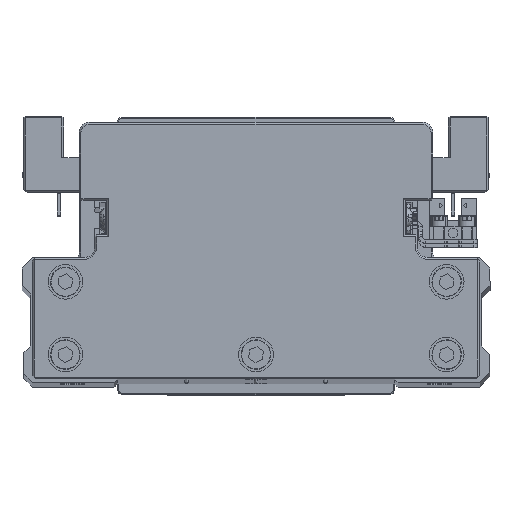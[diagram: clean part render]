
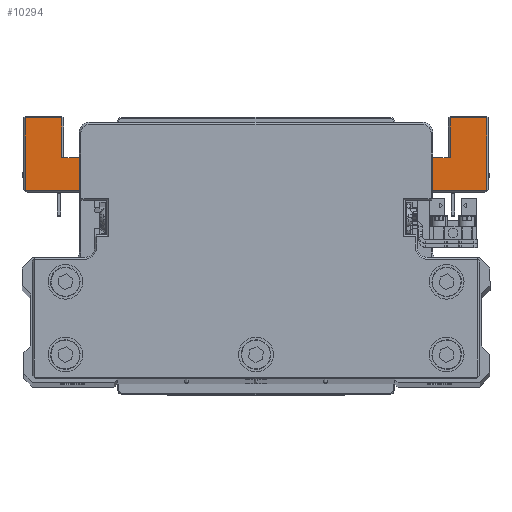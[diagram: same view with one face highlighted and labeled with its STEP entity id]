
A CAD part, top view. The second image highlights one B-rep face of the part: STEP entity #10294.
In plain terms, the highlighted planar face has unit normal (0, 0, 1) as drawn and (0, -1, 0) by its records, which use the part's own axes.
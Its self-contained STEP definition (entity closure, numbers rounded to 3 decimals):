
#60 = CARTESIAN_POINT ( 'NONE',  ( -56., -45., -64. ) ) ;
#133 = LINE ( 'NONE', #12550, #152 ) ;
#152 = VECTOR ( 'NONE', #24964, 1000. ) ;
#181 = EDGE_CURVE ( 'NONE', #21345, #37953, #11212, .T. ) ;
#535 = LINE ( 'NONE', #12955, #39543 ) ;
#1201 = CARTESIAN_POINT ( 'NONE',  ( 46., -45., -54. ) ) ;
#1546 = CARTESIAN_POINT ( 'NONE',  ( -55.5, -45., -52.5 ) ) ;
#1663 = CARTESIAN_POINT ( 'NONE',  ( -46., -45., -54. ) ) ;
#2232 = EDGE_CURVE ( 'NONE', #38686, #11664, #20636, .T. ) ;
#2414 = VECTOR ( 'NONE', #36011, 1000. ) ;
#2576 = LINE ( 'NONE', #15019, #5774 ) ;
#3680 = DIRECTION ( 'NONE',  ( 0., 0., -1. ) ) ;
#3846 = EDGE_CURVE ( 'NONE', #17227, #33360, #31991, .T. ) ;
#3894 = VERTEX_POINT ( 'NONE', #29159 ) ;
#3926 = VERTEX_POINT ( 'NONE', #1663 ) ;
#4112 = CARTESIAN_POINT ( 'NONE',  ( 25.802, -45., -41.111 ) ) ;
#4717 = CARTESIAN_POINT ( 'NONE',  ( 46., -45., -52.5 ) ) ;
#4971 = CIRCLE ( 'NONE', #27725, 1.5 ) ;
#5153 = DIRECTION ( 'NONE',  ( 0., 0., -1. ) ) ;
#5774 = VECTOR ( 'NONE', #27405, 1000. ) ;
#5891 = LINE ( 'NONE', #18320, #33972 ) ;
#5946 = CARTESIAN_POINT ( 'NONE',  ( 36.217, -45., -42.5 ) ) ;
#6085 = EDGE_CURVE ( 'NONE', #37953, #18068, #2576, .T. ) ;
#6494 = DIRECTION ( 'NONE',  ( 0., 0., -1. ) ) ;
#7729 = EDGE_CURVE ( 'NONE', #3894, #34493, #29431, .T. ) ;
#7739 = ORIENTED_EDGE ( 'NONE', *, *, #34046, .T. ) ;
#7794 = VERTEX_POINT ( 'NONE', #11117 ) ;
#8217 = CARTESIAN_POINT ( 'NONE',  ( -66., -45., -43. ) ) ;
#8430 = EDGE_CURVE ( 'NONE', #22675, #20014, #9210, .T. ) ;
#8718 = LINE ( 'NONE', #21138, #11509 ) ;
#8864 = EDGE_CURVE ( 'NONE', #33360, #26641, #5891, .T. ) ;
#9075 = CARTESIAN_POINT ( 'NONE',  ( 66.5, -45., -43. ) ) ;
#9210 = LINE ( 'NONE', #21621, #18199 ) ;
#9625 = CARTESIAN_POINT ( 'NONE',  ( 40.066, -45., -43. ) ) ;
#10032 = DIRECTION ( 'NONE',  ( 1., 0., 0. ) ) ;
#10294 = ADVANCED_FACE ( 'NONE', ( #15016 ), #27403, .T. ) ;
#11117 = CARTESIAN_POINT ( 'NONE',  ( -66.5, -45., -64. ) ) ;
#11212 = LINE ( 'NONE', #23607, #2414 ) ;
#11509 = VECTOR ( 'NONE', #33535, 1000. ) ;
#11601 = DIRECTION ( 'NONE',  ( 0., 0., 1. ) ) ;
#11664 = VERTEX_POINT ( 'NONE', #27411 ) ;
#11724 = ORIENTED_EDGE ( 'NONE', *, *, #15917, .T. ) ;
#11776 = EDGE_CURVE ( 'NONE', #27201, #34493, #133, .T. ) ;
#11945 = DIRECTION ( 'NONE',  ( 0., -1., 0. ) ) ;
#12223 = VECTOR ( 'NONE', #5153, 1000. ) ;
#12550 = CARTESIAN_POINT ( 'NONE',  ( -56., -45., -52.5 ) ) ;
#12786 = CARTESIAN_POINT ( 'NONE',  ( -40.066, -45., -41.5 ) ) ;
#12955 = CARTESIAN_POINT ( 'NONE',  ( 55.5, -45., -52.5 ) ) ;
#13227 = ORIENTED_EDGE ( 'NONE', *, *, #3846, .T. ) ;
#13364 = ORIENTED_EDGE ( 'NONE', *, *, #21334, .F. ) ;
#13639 = DIRECTION ( 'NONE',  ( 1., 0., 0. ) ) ;
#13727 = ORIENTED_EDGE ( 'NONE', *, *, #2232, .F. ) ;
#13988 = DIRECTION ( 'NONE',  ( -1., 0., 0. ) ) ;
#14300 = CIRCLE ( 'NONE', #37022, 1.5 ) ;
#14528 = EDGE_LOOP ( 'NONE', ( #34262, #30245, #11724, #28167, #31136, #34461, #31907, #35017, #13364, #7739, #13727, #39951, #23546, #30580, #31041, #34076, #25719, #13227 ) ) ;
#14578 = VECTOR ( 'NONE', #6494, 1000. ) ;
#15015 = VERTEX_POINT ( 'NONE', #24539 ) ;
#15016 = FACE_OUTER_BOUND ( 'NONE', #14528, .T. ) ;
#15019 = CARTESIAN_POINT ( 'NONE',  ( 40.066, -45., -43. ) ) ;
#15251 = LINE ( 'NONE', #27648, #26430 ) ;
#15827 = EDGE_CURVE ( 'NONE', #7794, #27201, #15251, .T. ) ;
#15917 = EDGE_CURVE ( 'NONE', #22380, #24632, #4971, .T. ) ;
#16543 = DIRECTION ( 'NONE',  ( -0.991, 0., 0.132 ) ) ;
#17227 = VERTEX_POINT ( 'NONE', #27907 ) ;
#17961 = VECTOR ( 'NONE', #20639, 1000. ) ;
#18068 = VERTEX_POINT ( 'NONE', #9625 ) ;
#18117 = EDGE_CURVE ( 'NONE', #20014, #21345, #25486, .T. ) ;
#18199 = VECTOR ( 'NONE', #34014, 1000. ) ;
#18320 = CARTESIAN_POINT ( 'NONE',  ( -77.786, -45., -42.5 ) ) ;
#19168 = CARTESIAN_POINT ( 'NONE',  ( 40.066, -45., -41.5 ) ) ;
#20014 = VERTEX_POINT ( 'NONE', #23416 ) ;
#20636 = LINE ( 'NONE', #33041, #12223 ) ;
#20639 = DIRECTION ( 'NONE',  ( -1., 0., 0. ) ) ;
#20957 = CARTESIAN_POINT ( 'NONE',  ( 66.5, -45., -64. ) ) ;
#21138 = CARTESIAN_POINT ( 'NONE',  ( -39.868, -45., -42.987 ) ) ;
#21334 = EDGE_CURVE ( 'NONE', #3926, #3894, #27069, .T. ) ;
#21345 = VERTEX_POINT ( 'NONE', #20957 ) ;
#21621 = CARTESIAN_POINT ( 'NONE',  ( 56., -45., -64.5 ) ) ;
#21966 = LINE ( 'NONE', #34358, #14578 ) ;
#22380 = VERTEX_POINT ( 'NONE', #25347 ) ;
#22675 = VERTEX_POINT ( 'NONE', #36690 ) ;
#23416 = CARTESIAN_POINT ( 'NONE',  ( 56., -45., -64. ) ) ;
#23546 = ORIENTED_EDGE ( 'NONE', *, *, #8430, .T. ) ;
#23607 = CARTESIAN_POINT ( 'NONE',  ( 66.5, -45., -43.5 ) ) ;
#24131 = CARTESIAN_POINT ( 'NONE',  ( -36.217, -45., -42.5 ) ) ;
#24359 = DIRECTION ( 'NONE',  ( 0., 0., -1. ) ) ;
#24539 = CARTESIAN_POINT ( 'NONE',  ( -66.5, -45., -43. ) ) ;
#24632 = VERTEX_POINT ( 'NONE', #34814 ) ;
#24964 = DIRECTION ( 'NONE',  ( 0., 0., 1. ) ) ;
#25068 = EDGE_CURVE ( 'NONE', #15015, #7794, #21966, .T. ) ;
#25193 = DIRECTION ( 'NONE',  ( 0., 1., 0. ) ) ;
#25347 = CARTESIAN_POINT ( 'NONE',  ( -39.868, -45., -42.987 ) ) ;
#25363 = DIRECTION ( 'NONE',  ( -1., 0., 0. ) ) ;
#25486 = LINE ( 'NONE', #37884, #38367 ) ;
#25719 = ORIENTED_EDGE ( 'NONE', *, *, #30894, .T. ) ;
#26430 = VECTOR ( 'NONE', #40049, 1000. ) ;
#26641 = VERTEX_POINT ( 'NONE', #24131 ) ;
#27069 = LINE ( 'NONE', #39468, #32485 ) ;
#27201 = VERTEX_POINT ( 'NONE', #60 ) ;
#27403 = PLANE ( 'NONE',  #36679 ) ;
#27405 = DIRECTION ( 'NONE',  ( -1., 0., 0. ) ) ;
#27411 = CARTESIAN_POINT ( 'NONE',  ( 46., -45., -54. ) ) ;
#27500 = VECTOR ( 'NONE', #13639, 1000. ) ;
#27648 = CARTESIAN_POINT ( 'NONE',  ( -55.5, -45., -64. ) ) ;
#27725 = AXIS2_PLACEMENT_3D ( 'NONE', #12786, #25193, #37593 ) ;
#27907 = CARTESIAN_POINT ( 'NONE',  ( 39.868, -45., -42.987 ) ) ;
#28055 = EDGE_CURVE ( 'NONE', #26641, #22380, #8718, .T. ) ;
#28167 = ORIENTED_EDGE ( 'NONE', *, *, #38263, .T. ) ;
#29095 = LINE ( 'NONE', #1201, #27500 ) ;
#29159 = CARTESIAN_POINT ( 'NONE',  ( -46., -45., -52.5 ) ) ;
#29431 = LINE ( 'NONE', #1546, #29839 ) ;
#29839 = VECTOR ( 'NONE', #13988, 1000. ) ;
#30245 = ORIENTED_EDGE ( 'NONE', *, *, #28055, .T. ) ;
#30580 = ORIENTED_EDGE ( 'NONE', *, *, #18117, .T. ) ;
#30714 = DIRECTION ( 'NONE',  ( -1., 0., 0. ) ) ;
#30892 = VECTOR ( 'NONE', #16543, 1000. ) ;
#30894 = EDGE_CURVE ( 'NONE', #18068, #17227, #14300, .T. ) ;
#31041 = ORIENTED_EDGE ( 'NONE', *, *, #181, .T. ) ;
#31136 = ORIENTED_EDGE ( 'NONE', *, *, #25068, .T. ) ;
#31269 = EDGE_CURVE ( 'NONE', #22675, #38686, #535, .T. ) ;
#31560 = DIRECTION ( 'NONE',  ( 0., 1., 0. ) ) ;
#31907 = ORIENTED_EDGE ( 'NONE', *, *, #11776, .T. ) ;
#31991 = LINE ( 'NONE', #4112, #30892 ) ;
#32485 = VECTOR ( 'NONE', #11601, 1000. ) ;
#33041 = CARTESIAN_POINT ( 'NONE',  ( 46., -45., -52.5 ) ) ;
#33360 = VERTEX_POINT ( 'NONE', #5946 ) ;
#33535 = DIRECTION ( 'NONE',  ( -0.991, 0., -0.132 ) ) ;
#33972 = VECTOR ( 'NONE', #30714, 1000. ) ;
#34014 = DIRECTION ( 'NONE',  ( 0., 0., -1. ) ) ;
#34046 = EDGE_CURVE ( 'NONE', #3926, #11664, #29095, .T. ) ;
#34076 = ORIENTED_EDGE ( 'NONE', *, *, #6085, .T. ) ;
#34262 = ORIENTED_EDGE ( 'NONE', *, *, #8864, .T. ) ;
#34358 = CARTESIAN_POINT ( 'NONE',  ( -66.5, -45., -64.5 ) ) ;
#34461 = ORIENTED_EDGE ( 'NONE', *, *, #15827, .T. ) ;
#34493 = VERTEX_POINT ( 'NONE', #34919 ) ;
#34814 = CARTESIAN_POINT ( 'NONE',  ( -40.066, -45., -43. ) ) ;
#34919 = CARTESIAN_POINT ( 'NONE',  ( -56., -45., -52.5 ) ) ;
#35017 = ORIENTED_EDGE ( 'NONE', *, *, #7729, .F. ) ;
#36011 = DIRECTION ( 'NONE',  ( 0., 0., 1. ) ) ;
#36094 = LINE ( 'NONE', #8217, #17961 ) ;
#36679 = AXIS2_PLACEMENT_3D ( 'NONE', #39806, #11945, #24359 ) ;
#36690 = CARTESIAN_POINT ( 'NONE',  ( 56., -45., -52.5 ) ) ;
#37022 = AXIS2_PLACEMENT_3D ( 'NONE', #19168, #31560, #3680 ) ;
#37593 = DIRECTION ( 'NONE',  ( 0., 0., -1. ) ) ;
#37884 = CARTESIAN_POINT ( 'NONE',  ( 67., -45., -64. ) ) ;
#37953 = VERTEX_POINT ( 'NONE', #9075 ) ;
#38263 = EDGE_CURVE ( 'NONE', #24632, #15015, #36094, .T. ) ;
#38367 = VECTOR ( 'NONE', #10032, 1000. ) ;
#38686 = VERTEX_POINT ( 'NONE', #4717 ) ;
#39468 = CARTESIAN_POINT ( 'NONE',  ( -46., -45., -52.5 ) ) ;
#39543 = VECTOR ( 'NONE', #25363, 1000. ) ;
#39806 = CARTESIAN_POINT ( 'NONE',  ( 0., -45., 0. ) ) ;
#39951 = ORIENTED_EDGE ( 'NONE', *, *, #31269, .F. ) ;
#40049 = DIRECTION ( 'NONE',  ( 1., 0., 0. ) ) ;
